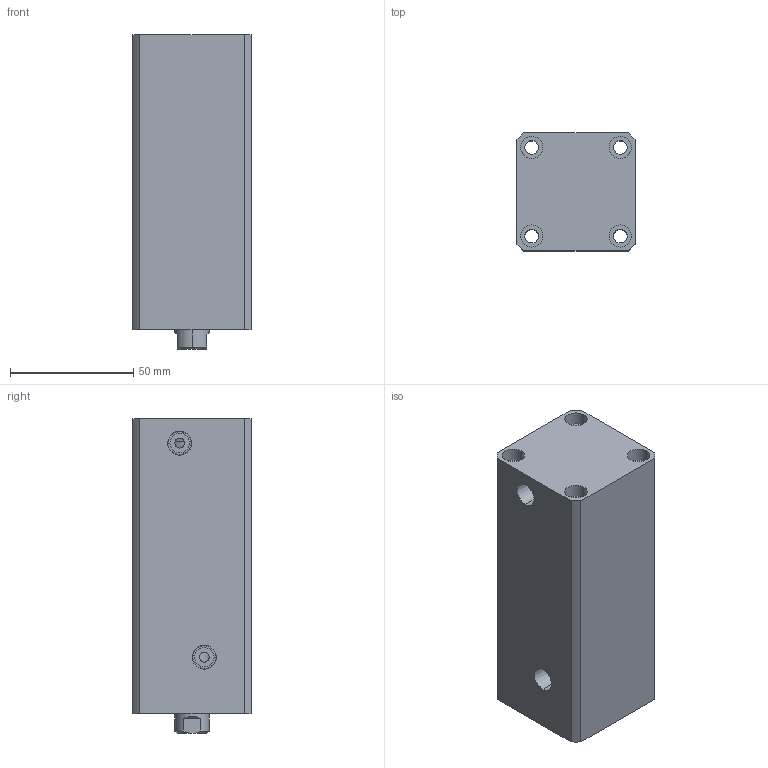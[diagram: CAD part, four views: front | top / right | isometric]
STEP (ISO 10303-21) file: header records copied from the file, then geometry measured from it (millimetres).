
FILE_DESCRIPTION (( 'STEP AP214' ), '1' );
FILE_NAME ('chtb-sd25x75n_asm.STEP', '2018-05-22T12:34:34', ( 'Windows' ), ( 'Microsoft' ), 'SwSTEP 2.0', 'SolidWorks 2015', '' );
FILE_SCHEMA (( 'AUTOMOTIVE_DESIGN' ));
Length unit declared in the file: millimetre
Products named in the file (4): CHTB-SD25X75NHSG; CHTB-SD25X75NBT; CHTB-25QG; chtb-sd25x75n_asm
Assembly tree (3 placements, depth 2):
  chtb-sd25x75n_asm
    CHTB-25QG
    CHTB-SD25X75NBT
    CHTB-SD25X75NHSG
Bounding box: 48 x 48 x 128 mm (x, y, z)
Volume: 233275.5 mm3; surface area: 58122.8 mm2
Topology: 3 solids, 3 shells, 144 faces, 377 edges, 257 vertices
Faces by surface type: cylinder 85, plane 36, cone 13, bspline 10
Entity records: 7940 total; most frequent: CARTESIAN_POINT 4299, ORIENTED_EDGE 742, DIRECTION 671, EDGE_CURVE 371, AXIS2_PLACEMENT_3D 278, VERTEX_POINT 257, EDGE_LOOP 182, ADVANCED_FACE 144
